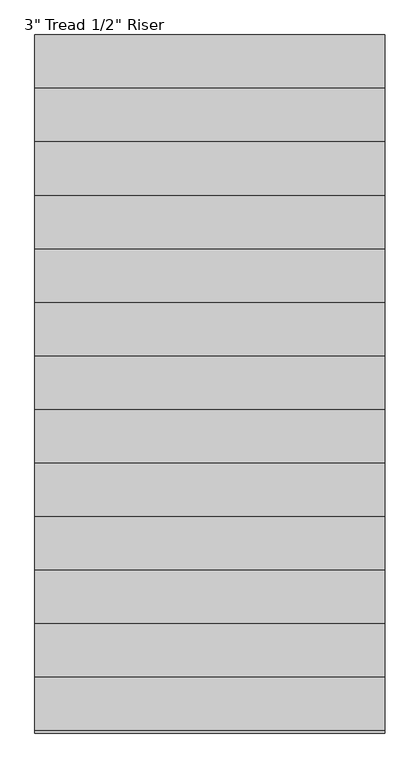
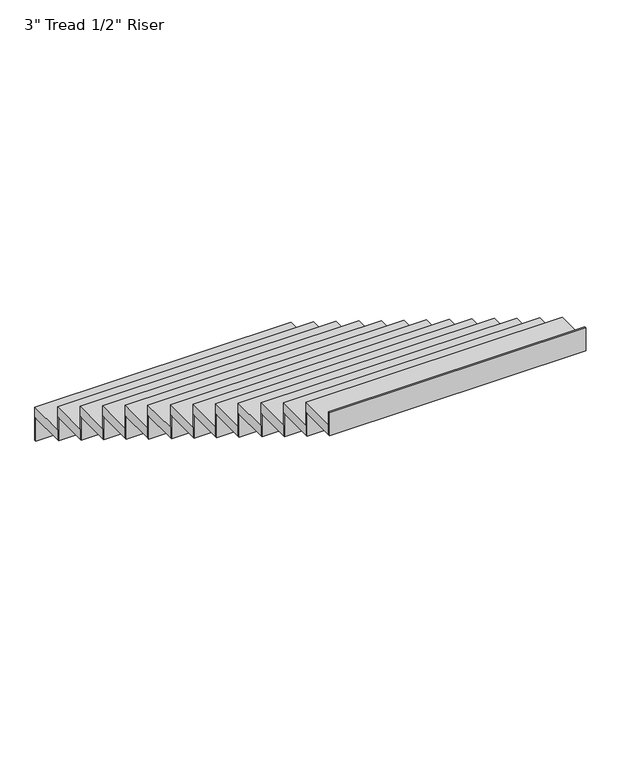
"""IFC4 building model written with IfcOpenShell, lengths in millimetres: stair flight geometry."""

from ifc_helpers import new_model, si_unit, frame, origin, place, context, project, spatial, polyline, outline, extrude, source, transform, mapped, element, save


def stair_flight_2bd04a2d(model_context):
    return source(origin(), model_context, "Body", "SweptSolid", [
        extrude(outline(polyline([(35251.5654546, 226576.0909796), (35251.5654546, 226588.7909796), (37080.3654546, 226588.7909796), (37080.3654546, 226576.0909796), (35251.5654546, 226576.0909796)])), frame((0.0, 0.0, 292339.1833333), z_axis=(0.0, 0.0, 1.0), x_axis=(1.0, 0.0, 0.0)), (0.0, 0.0, 1.0), 172.5083333),
        extrude(outline(polyline([(37080.3654546, 226309.3909796), (35251.5654546, 226309.3909796), (35251.5654546, 226588.7909796), (37080.3654546, 226588.7909796), (37080.3654546, 226309.3909796)])), frame((0.0, 0.0, 292511.6916667), z_axis=(0.0, 0.0, 1.0), x_axis=(1.0, 0.0, 0.0)), (0.0, 0.0, 1.0), 76.2),
        extrude(outline(polyline([(35251.5654546, 226296.6909796), (35251.5654546, 226309.3909796), (37080.3654546, 226309.3909796), (37080.3654546, 226296.6909796), (35251.5654546, 226296.6909796)])), frame((0.0, 0.0, 292511.6916667), z_axis=(0.0, 0.0, 1.0), x_axis=(1.0, 0.0, 0.0)), (0.0, 0.0, 1.0), 172.5083333),
        extrude(outline(polyline([(37080.3654546, 226029.9909796), (35251.5654546, 226029.9909796), (35251.5654546, 226309.3909796), (37080.3654546, 226309.3909796), (37080.3654546, 226029.9909796)])), frame((0.0, 0.0, 292684.2), z_axis=(0.0, 0.0, 1.0), x_axis=(1.0, 0.0, 0.0)), (0.0, 0.0, 1.0), 76.2),
        extrude(outline(polyline([(35251.5654546, 226017.2909796), (35251.5654546, 226029.9909796), (37080.3654546, 226029.9909796), (37080.3654546, 226017.2909796), (35251.5654546, 226017.2909796)])), frame((0.0, 0.0, 292684.2), z_axis=(0.0, 0.0, 1.0), x_axis=(1.0, 0.0, 0.0)), (0.0, 0.0, 1.0), 172.5083333),
        extrude(outline(polyline([(37080.3654546, 225750.5909796), (35251.5654546, 225750.5909796), (35251.5654546, 226029.9909796), (37080.3654546, 226029.9909796), (37080.3654546, 225750.5909796)])), frame((0.0, 0.0, 292856.7083333), z_axis=(0.0, 0.0, 1.0), x_axis=(1.0, 0.0, 0.0)), (0.0, 0.0, 1.0), 76.2),
        extrude(outline(polyline([(35251.5654546, 225737.8909796), (35251.5654546, 225750.5909796), (37080.3654546, 225750.5909796), (37080.3654546, 225737.8909796), (35251.5654546, 225737.8909796)])), frame((0.0, 0.0, 292856.7083333), z_axis=(0.0, 0.0, 1.0), x_axis=(1.0, 0.0, 0.0)), (0.0, 0.0, 1.0), 172.5083333),
        extrude(outline(polyline([(37080.3654546, 225471.1909796), (35251.5654546, 225471.1909796), (35251.5654546, 225750.5909796), (37080.3654546, 225750.5909796), (37080.3654546, 225471.1909796)])), frame((0.0, 0.0, 293029.2166667), z_axis=(0.0, 0.0, 1.0), x_axis=(1.0, 0.0, 0.0)), (0.0, 0.0, 1.0), 76.2),
        extrude(outline(polyline([(35251.5654546, 225458.4909796), (35251.5654546, 225471.1909796), (37080.3654546, 225471.1909796), (37080.3654546, 225458.4909796), (35251.5654546, 225458.4909796)])), frame((0.0, 0.0, 293029.2166667), z_axis=(0.0, 0.0, 1.0), x_axis=(1.0, 0.0, 0.0)), (0.0, 0.0, 1.0), 172.5083333),
        extrude(outline(polyline([(37080.3654546, 225191.7909796), (35251.5654546, 225191.7909796), (35251.5654546, 225471.1909796), (37080.3654546, 225471.1909796), (37080.3654546, 225191.7909796)])), frame((0.0, 0.0, 293201.725), z_axis=(0.0, 0.0, 1.0), x_axis=(1.0, 0.0, 0.0)), (0.0, 0.0, 1.0), 76.2),
        extrude(outline(polyline([(35251.5654546, 225179.0909796), (35251.5654546, 225191.7909796), (37080.3654546, 225191.7909796), (37080.3654546, 225179.0909796), (35251.5654546, 225179.0909796)])), frame((0.0, 0.0, 293201.725), z_axis=(0.0, 0.0, 1.0), x_axis=(1.0, 0.0, 0.0)), (0.0, 0.0, 1.0), 172.5083333),
        extrude(outline(polyline([(37080.3654546, 224912.3909796), (35251.5654546, 224912.3909796), (35251.5654546, 225191.7909796), (37080.3654546, 225191.7909796), (37080.3654546, 224912.3909796)])), frame((0.0, 0.0, 293374.2333333), z_axis=(0.0, 0.0, 1.0), x_axis=(1.0, 0.0, 0.0)), (0.0, 0.0, 1.0), 76.2),
        extrude(outline(polyline([(35251.5654546, 224899.6909796), (35251.5654546, 224912.3909796), (37080.3654546, 224912.3909796), (37080.3654546, 224899.6909796), (35251.5654546, 224899.6909796)])), frame((0.0, 0.0, 293374.2333333), z_axis=(0.0, 0.0, 1.0), x_axis=(1.0, 0.0, 0.0)), (0.0, 0.0, 1.0), 172.5083333),
        extrude(outline(polyline([(37080.3654546, 224632.9909796), (35251.5654546, 224632.9909796), (35251.5654546, 224912.3909796), (37080.3654546, 224912.3909796), (37080.3654546, 224632.9909796)])), frame((0.0, 0.0, 293546.7416667), z_axis=(0.0, 0.0, 1.0), x_axis=(1.0, 0.0, 0.0)), (0.0, 0.0, 1.0), 76.2),
        extrude(outline(polyline([(35251.5654546, 224620.2909796), (35251.5654546, 224632.9909796), (37080.3654546, 224632.9909796), (37080.3654546, 224620.2909796), (35251.5654546, 224620.2909796)])), frame((0.0, 0.0, 293546.7416667), z_axis=(0.0, 0.0, 1.0), x_axis=(1.0, 0.0, 0.0)), (0.0, 0.0, 1.0), 172.5083333),
        extrude(outline(polyline([(37080.3654546, 224353.5909796), (35251.5654546, 224353.5909796), (35251.5654546, 224632.9909796), (37080.3654546, 224632.9909796), (37080.3654546, 224353.5909796)])), frame((0.0, 0.0, 293719.25), z_axis=(0.0, 0.0, 1.0), x_axis=(1.0, 0.0, 0.0)), (0.0, 0.0, 1.0), 76.2),
        extrude(outline(polyline([(35251.5654546, 224340.8909796), (35251.5654546, 224353.5909796), (37080.3654546, 224353.5909796), (37080.3654546, 224340.8909796), (35251.5654546, 224340.8909796)])), frame((0.0, 0.0, 293719.25), z_axis=(0.0, 0.0, 1.0), x_axis=(1.0, 0.0, 0.0)), (0.0, 0.0, 1.0), 172.5083333),
        extrude(outline(polyline([(37080.3654546, 224074.1909796), (35251.5654546, 224074.1909796), (35251.5654546, 224353.5909796), (37080.3654546, 224353.5909796), (37080.3654546, 224074.1909796)])), frame((0.0, 0.0, 293891.7583333), z_axis=(0.0, 0.0, 1.0), x_axis=(1.0, 0.0, 0.0)), (0.0, 0.0, 1.0), 76.2),
        extrude(outline(polyline([(35251.5654546, 224061.4909796), (35251.5654546, 224074.1909796), (37080.3654546, 224074.1909796), (37080.3654546, 224061.4909796), (35251.5654546, 224061.4909796)])), frame((0.0, 0.0, 293891.7583333), z_axis=(0.0, 0.0, 1.0), x_axis=(1.0, 0.0, 0.0)), (0.0, 0.0, 1.0), 172.5083333),
        extrude(outline(polyline([(37080.3654546, 223794.7909796), (35251.5654546, 223794.7909796), (35251.5654546, 224074.1909796), (37080.3654546, 224074.1909796), (37080.3654546, 223794.7909796)])), frame((0.0, 0.0, 294064.2666667), z_axis=(0.0, 0.0, 1.0), x_axis=(1.0, 0.0, 0.0)), (0.0, 0.0, 1.0), 76.2),
        extrude(outline(polyline([(35251.5654546, 223782.0909796), (35251.5654546, 223794.7909796), (37080.3654546, 223794.7909796), (37080.3654546, 223782.0909796), (35251.5654546, 223782.0909796)])), frame((0.0, 0.0, 294064.2666667), z_axis=(0.0, 0.0, 1.0), x_axis=(1.0, 0.0, 0.0)), (0.0, 0.0, 1.0), 172.5083333),
        extrude(outline(polyline([(37080.3654546, 223515.3909796), (35251.5654546, 223515.3909796), (35251.5654546, 223794.7909796), (37080.3654546, 223794.7909796), (37080.3654546, 223515.3909796)])), frame((0.0, 0.0, 294236.775), z_axis=(0.0, 0.0, 1.0), x_axis=(1.0, 0.0, 0.0)), (0.0, 0.0, 1.0), 76.2),
        extrude(outline(polyline([(35251.5654546, 223502.6909796), (35251.5654546, 223515.3909796), (37080.3654546, 223515.3909796), (37080.3654546, 223502.6909796), (35251.5654546, 223502.6909796)])), frame((0.0, 0.0, 294236.775), z_axis=(0.0, 0.0, 1.0), x_axis=(1.0, 0.0, 0.0)), (0.0, 0.0, 1.0), 172.5083333),
        extrude(outline(polyline([(37080.3654546, 223235.9909796), (35251.5654546, 223235.9909796), (35251.5654546, 223515.3909796), (37080.3654546, 223515.3909796), (37080.3654546, 223235.9909796)])), frame((0.0, 0.0, 294409.2833333), z_axis=(0.0, 0.0, 1.0), x_axis=(1.0, 0.0, 0.0)), (0.0, 0.0, 1.0), 76.2),
        extrude(outline(polyline([(35251.5654546, 223223.2909796), (35251.5654546, 223235.9909796), (37080.3654546, 223235.9909796), (37080.3654546, 223223.2909796), (35251.5654546, 223223.2909796)])), frame((0.0, 0.0, 294409.2833333), z_axis=(0.0, 0.0, 1.0), x_axis=(1.0, 0.0, 0.0)), (0.0, 0.0, 1.0), 172.5083333),
        extrude(outline(polyline([(37080.3654546, 222956.5909796), (35251.5654546, 222956.5909796), (35251.5654546, 223235.9909796), (37080.3654546, 223235.9909796), (37080.3654546, 222956.5909796)])), frame((0.0, 0.0, 294581.7916667), z_axis=(0.0, 0.0, 1.0), x_axis=(1.0, 0.0, 0.0)), (0.0, 0.0, 1.0), 76.2),
        extrude(outline(polyline([(35251.5654546, 222943.8909796), (35251.5654546, 222956.5909796), (37080.3654546, 222956.5909796), (37080.3654546, 222943.8909796), (35251.5654546, 222943.8909796)])), frame((0.0, 0.0, 294581.7916667), z_axis=(0.0, 0.0, 1.0), x_axis=(1.0, 0.0, 0.0)), (0.0, 0.0, 1.0), 172.5083333),
    ])


if __name__ == "__main__":
    model = new_model("IFC4")
    model_context = context("Model", 3, world=origin())
    ifc_project = project(units=[si_unit("LENGTHUNIT", "METRE", prefix="MILLI")], contexts=[model_context])
    site = spatial("IfcSite", under=ifc_project)
    building = spatial("IfcBuilding", under=site)
    placement = place(None, origin())
    stair_flight_shape = stair_flight_2bd04a2d(model_context)
    element("IfcStairFlight", 1, ObjectType="3\" Tread 1/2\" Riser", at=placement, inside=building, context=model_context, shape_type="MappedRepresentation", body=[
        mapped(stair_flight_shape, transform((0.0, 0.0, 0.0), x_axis=(1.0, 0.0, 0.0), y_axis=(0.0, 1.0, 0.0), z_axis=(0.0, 0.0, 1.0))),
    ])
    save(model, "model.ifc")
